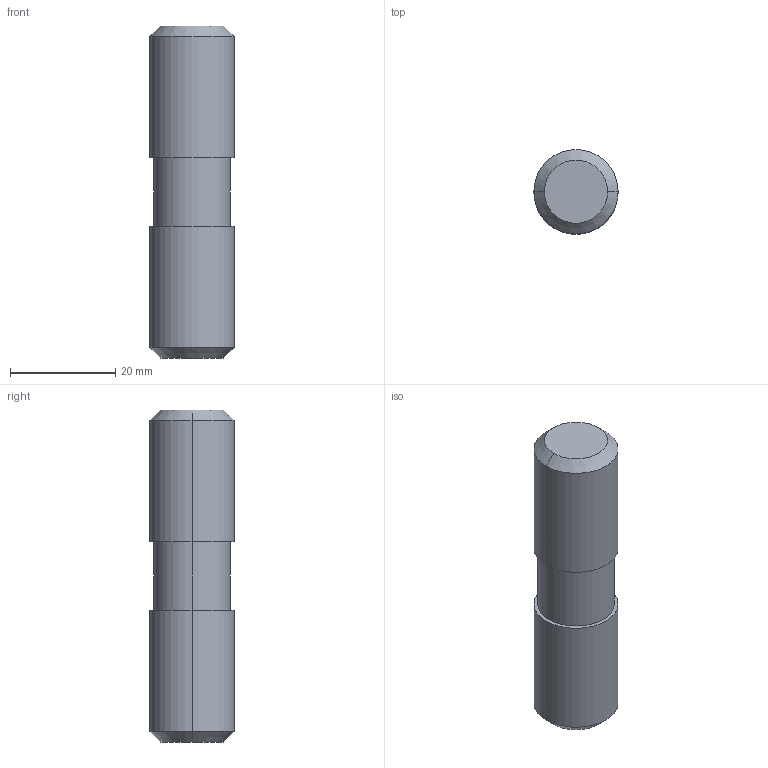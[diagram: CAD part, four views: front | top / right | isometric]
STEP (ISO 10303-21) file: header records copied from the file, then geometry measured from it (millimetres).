
FILE_DESCRIPTION (( 'STEP AP203' ), '1' );
FILE_NAME ('bj745-16063.STEP', '2021-10-25T00:10:43', ( '' ), ( '' ), 'SwSTEP 2.0', 'SolidWorks 2020', '' );
FILE_SCHEMA (( 'CONFIG_CONTROL_DESIGN' ));
Length unit declared in the file: millimetre
Products named in the file (1): bj745-16063
Bounding box: 16 x 16 x 63 mm (x, y, z)
Volume: 12015.5 mm3; surface area: 3451.3 mm2
Topology: 1 solids, 1 shells, 14 faces, 26 edges, 16 vertices
Faces by surface type: cylinder 6, cone 4, plane 4
Entity records: 431 total; most frequent: DIRECTION 72, CARTESIAN_POINT 57, ORIENTED_EDGE 52, AXIS2_PLACEMENT_3D 31, EDGE_CURVE 26, CIRCLE 16, VERTEX_POINT 16, EDGE_LOOP 16
